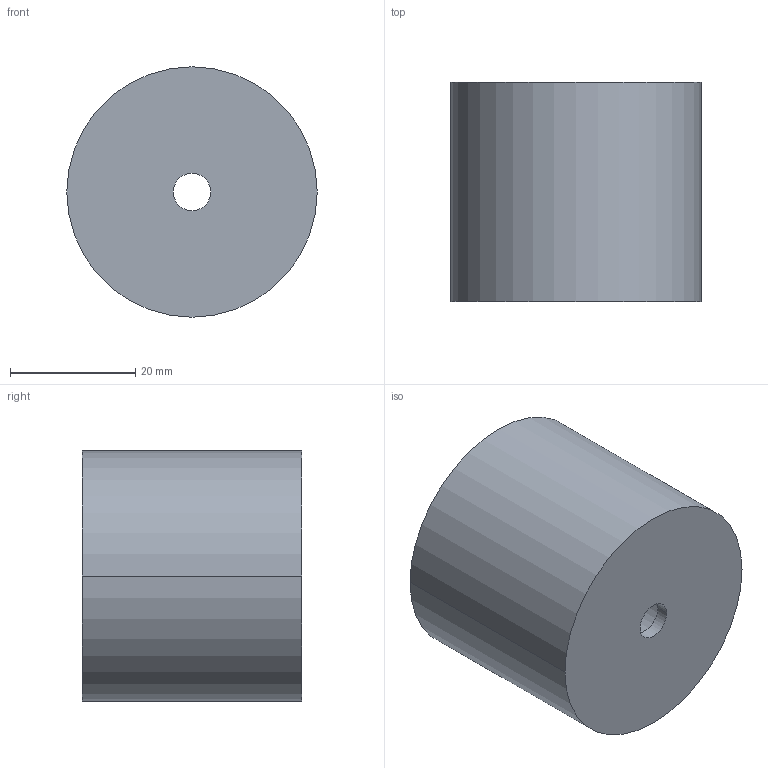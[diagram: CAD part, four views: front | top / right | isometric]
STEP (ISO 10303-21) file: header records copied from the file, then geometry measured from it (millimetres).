
FILE_DESCRIPTION (( 'STEP AP214' ), '1' );
FILE_NAME ('0778-001.STEP', '2024-05-22T07:43:29', ( '' ), ( '' ), 'SwSTEP 2.0', 'SolidWorks 2023', '' );
FILE_SCHEMA (( 'AUTOMOTIVE_DESIGN' ));
Length unit declared in the file: millimetre
Products named in the file (1): 0778-001
Bounding box: 40 x 35 x 40 mm (x, y, z)
Volume: 31829.4 mm3; surface area: 8962.4 mm2
Topology: 1 solids, 1 shells, 22 faces, 44 edges, 26 vertices
Faces by surface type: cylinder 12, cone 6, plane 4
Entity records: 601 total; most frequent: DIRECTION 116, CARTESIAN_POINT 93, ORIENTED_EDGE 88, AXIS2_PLACEMENT_3D 49, EDGE_CURVE 44, CIRCLE 26, VERTEX_POINT 26, EDGE_LOOP 26
